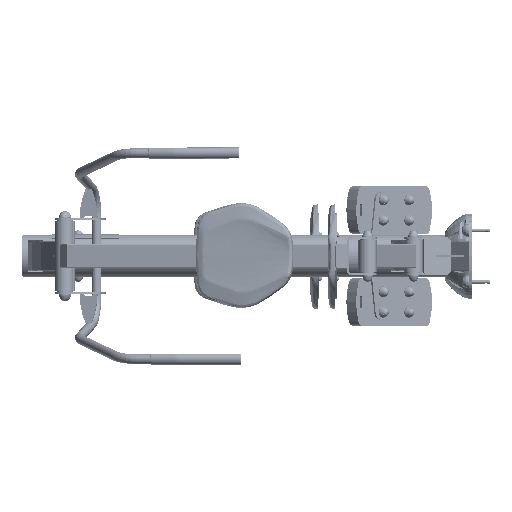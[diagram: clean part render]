
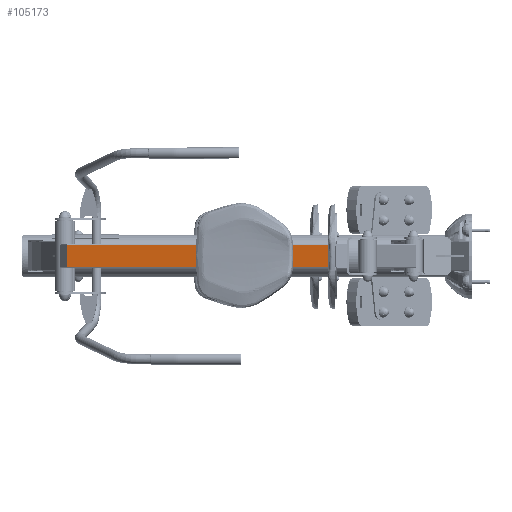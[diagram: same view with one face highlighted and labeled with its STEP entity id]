
A CAD part, left-side view. The second image highlights one B-rep face of the part: STEP entity #105173.
In plain terms, the highlighted planar face has unit normal (-0.984, 0.18, 0) as drawn and (0, 0.174, 0.985) by its records, which use the part's own axes.
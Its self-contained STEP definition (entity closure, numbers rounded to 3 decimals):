
#872 = ORIENTED_EDGE ( 'NONE', *, *, #136323, .T. ) ;
#12037 = LINE ( 'NONE', #120669, #174261 ) ;
#21797 = EDGE_LOOP ( 'NONE', ( #152768, #872, #154516, #34841 ) ) ;
#26325 = EDGE_CURVE ( 'NONE', #175537, #162159, #58402, .T. ) ;
#32414 = EDGE_CURVE ( 'NONE', #162159, #110796, #51533, .T. ) ;
#33466 = CARTESIAN_POINT ( 'NONE',  ( -35., 40., -316.436 ) ) ;
#34841 = ORIENTED_EDGE ( 'NONE', *, *, #26325, .F. ) ;
#40891 = DIRECTION ( 'NONE',  ( -1., 0., 0. ) ) ;
#51533 = LINE ( 'NONE', #33466, #144953 ) ;
#58402 = LINE ( 'NONE', #135092, #124082 ) ;
#66725 = CARTESIAN_POINT ( 'NONE',  ( -35., 40., -316.436 ) ) ;
#80302 = CARTESIAN_POINT ( 'NONE',  ( 35., 927.042, -472.845 ) ) ;
#80354 = DIRECTION ( 'NONE',  ( 0., 0.985, -0.174 ) ) ;
#105173 = ADVANCED_FACE ( 'NONE', ( #173798 ), #109899, .F. ) ;
#108954 = CARTESIAN_POINT ( 'NONE',  ( 35., 40., -316.436 ) ) ;
#109899 = PLANE ( 'NONE',  #201077 ) ;
#110796 = VERTEX_POINT ( 'NONE', #198760 ) ;
#120669 = CARTESIAN_POINT ( 'NONE',  ( -35., 927.042, -472.845 ) ) ;
#124082 = VECTOR ( 'NONE', #170176, 1000. ) ;
#130758 = VERTEX_POINT ( 'NONE', #80302 ) ;
#135092 = CARTESIAN_POINT ( 'NONE',  ( -35., 40., -316.436 ) ) ;
#136323 = EDGE_CURVE ( 'NONE', #130758, #110796, #12037, .T. ) ;
#138719 = DIRECTION ( 'NONE',  ( 0., -0.174, -0.985 ) ) ;
#144953 = VECTOR ( 'NONE', #80354, 1000. ) ;
#148819 = CARTESIAN_POINT ( 'NONE',  ( 35., 40., -316.436 ) ) ;
#150895 = LINE ( 'NONE', #148819, #164764 ) ;
#152768 = ORIENTED_EDGE ( 'NONE', *, *, #155893, .T. ) ;
#154516 = ORIENTED_EDGE ( 'NONE', *, *, #32414, .F. ) ;
#155893 = EDGE_CURVE ( 'NONE', #175537, #130758, #150895, .T. ) ;
#157825 = CARTESIAN_POINT ( 'NONE',  ( -35., 40., -316.436 ) ) ;
#162159 = VERTEX_POINT ( 'NONE', #66725 ) ;
#164764 = VECTOR ( 'NONE', #168948, 1000. ) ;
#168948 = DIRECTION ( 'NONE',  ( 0., 0.985, -0.174 ) ) ;
#170176 = DIRECTION ( 'NONE',  ( -1., 0., 0. ) ) ;
#173798 = FACE_OUTER_BOUND ( 'NONE', #21797, .T. ) ;
#174261 = VECTOR ( 'NONE', #40891, 1000. ) ;
#175537 = VERTEX_POINT ( 'NONE', #108954 ) ;
#189798 = DIRECTION ( 'NONE',  ( 0., 0.985, -0.174 ) ) ;
#198760 = CARTESIAN_POINT ( 'NONE',  ( -35., 927.042, -472.845 ) ) ;
#201077 = AXIS2_PLACEMENT_3D ( 'NONE', #157825, #138719, #189798 ) ;
